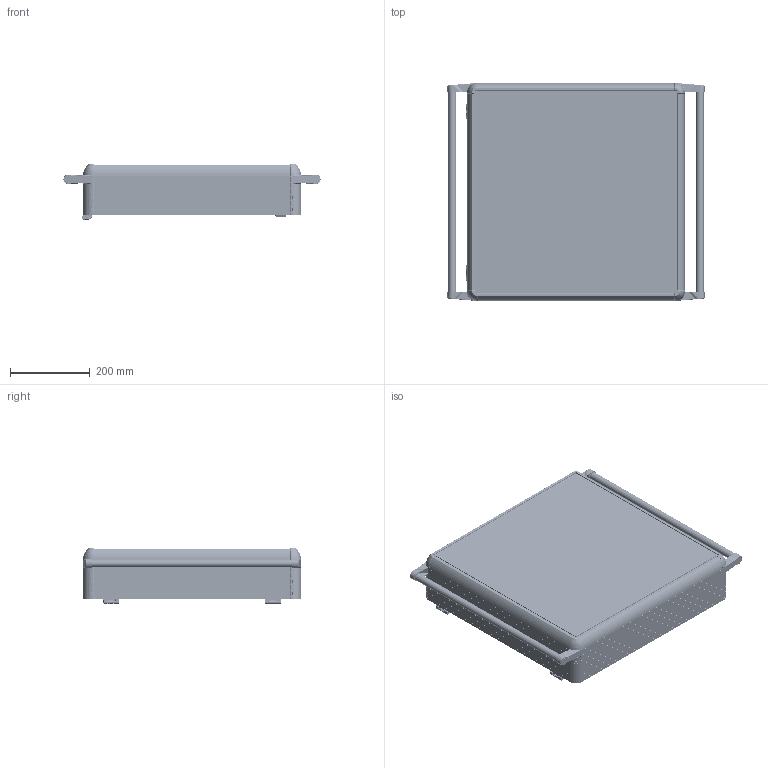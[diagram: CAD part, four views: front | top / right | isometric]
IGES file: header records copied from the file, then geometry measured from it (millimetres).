
Start section: SolidWorks IGES file using analytic representation for surfaces
Global section: file name: D:\PANO_STEP\120\120'lik data\1200-0212.IGS; native system: SolidWorks 2022; preprocessor: SolidWorks 2022; author: User; date: 220420.145558; units: millimetre
Bounding box: 644.62 x 547 x 139.15 mm (x, y, z)
Surface area: 2048397 mm2 (no closed solid volume)
Topology: 0 solids, 0 shells, 6953 faces, 60804 edges, 60699 vertices
Faces by surface type: bspline 4469, revolution 2484
